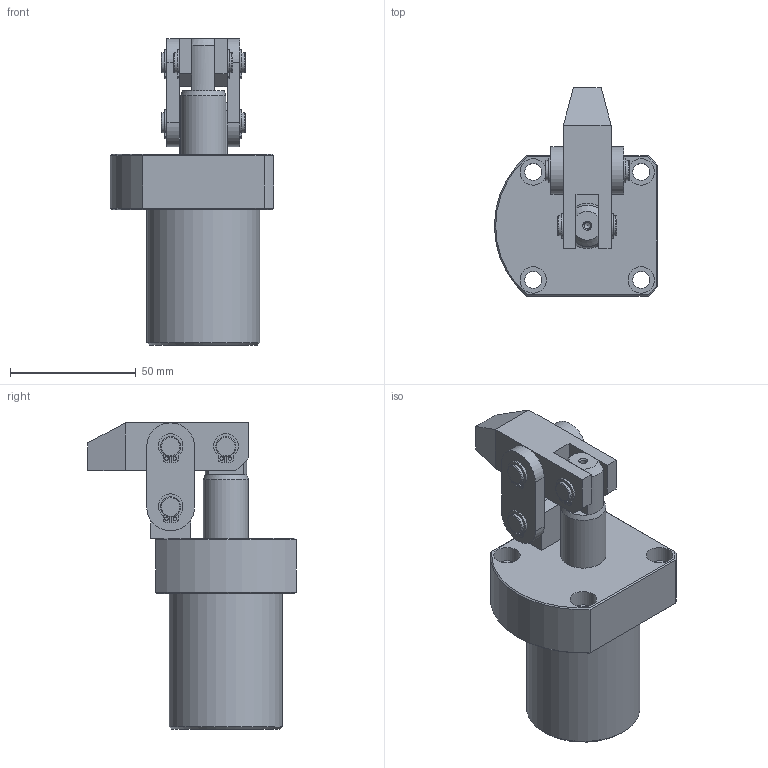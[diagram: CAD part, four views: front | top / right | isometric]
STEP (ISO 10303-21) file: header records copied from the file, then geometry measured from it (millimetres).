
FILE_DESCRIPTION(/* description */ ('Unknown'),/* implementation_level */ '2;1');
FILE_NAME(/* name */ 'HLB-FAM25-L-A',/* time_stamp */ '2025-05-13T02:29:48+08:00',/* author */ ('Unknown'),/* organization */ ('Unknown'),/* preprocessor_version */ 'ST-DEVELOPER v16.7',/* originating_system */ 'DEX',/* authorisation */ $);
FILE_SCHEMA (('AUTOMOTIVE_DESIGN {1 0 10303 214 3 1 1}'));
Length unit declared in the file: millimetre
Products named in the file (8): HLB-FAM25-L-A; HLB-FAM25-L-CYLINDER; HLB-25-墊; HLB-25-A; HLB-2502-AXLE CENTRE; HLB-25-PINªø-; HLB-25-PINµu“á?; HLB-25-CΙ紩
Assembly tree (14 placements, depth 2):
  HLB-FAM25-L-A
    HLB-FAM25-L-CYLINDER
    HLB-25-墊  x2
    HLB-25-A
    HLB-2502-AXLE CENTRE
    HLB-25-PINªø-  x2
    HLB-25-PINµu“á?
    HLB-25-CΙ紩  x6
Bounding box: 65 x 83 x 122 mm (x, y, z)
Volume: 184580 mm3; surface area: 47214.6 mm2
Topology: 14 solids, 14 shells, 254 faces, 581 edges, 381 vertices
Faces by surface type: plane 116, cylinder 113, cone 17, torus 8
Full cylindrical faces by diameter (mm): 1.4 x12, 2 x2, 2.6 x1, 4.1 x2, 6.8 x4, 7.5 x6, 8 x18, 10 x2, 10.5 x4, 18 x2, 25 x2, 45 x1
Entity records: 4126 total; most frequent: DIRECTION 711, CARTESIAN_POINT 694, ORIENTED_EDGE 528, AXIS2_PLACEMENT_3D 299, EDGE_CURVE 264, FACE_BOUND 256, EDGE_LOOP 255, VERTEX_POINT 202
